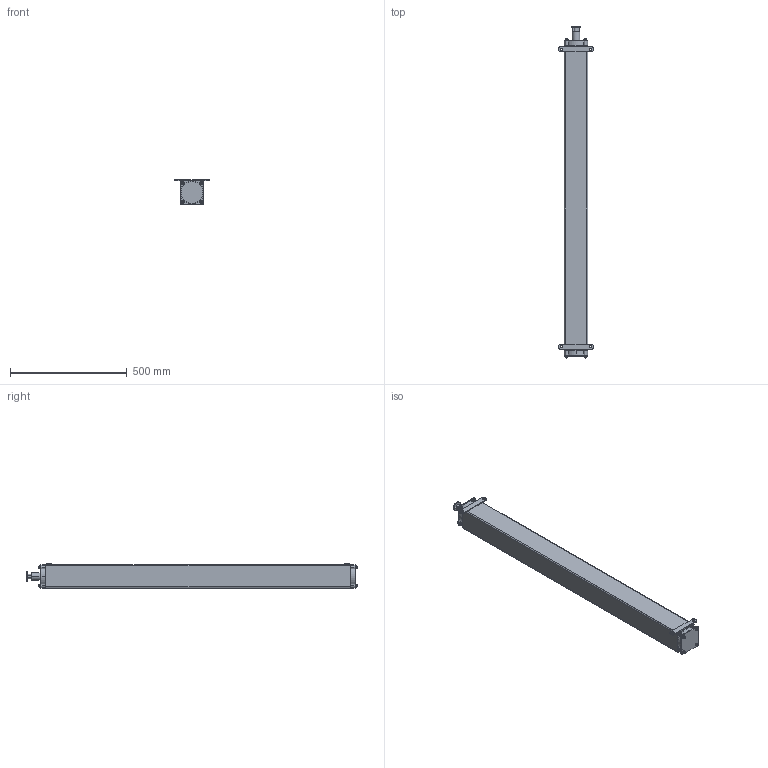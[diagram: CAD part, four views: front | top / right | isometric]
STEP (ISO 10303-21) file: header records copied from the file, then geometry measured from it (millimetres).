
FILE_DESCRIPTION((''),'2;1');
FILE_NAME('EFB-EX_ASM','2021-08-19T10:35:04',('18720616900'),(''),'CREO PARAMETRIC BY PTC INC, 2019010','CREO PARAMETRIC BY PTC INC, 2019010','');
FILE_SCHEMA(('CONFIG_CONTROL_DESIGN'));
Length unit declared in the file: millimetre
Products named in the file (6): EFB-EX-115; M6-50-0001; M6-1--00; M6-1-00; 0001_ASM; EFB-EX_ASM
Assembly tree (12 placements, depth 3):
  EFB-EX_ASM
    EFB-EX-115
    0001_ASM  x8
      M6-50-0001
      M6-1--00
      M6-1-00
Bounding box: 150 x 1419.5 x 104 mm (x, y, z)
Volume: 1623479.3 mm3; surface area: 1054242.7 mm2
Topology: 25 solids, 33 shells, 1247 faces, 3234 edges, 2074 vertices
Faces by surface type: cone 488, plane 265, bspline 264, cylinder 180, torus 50
Entity records: 19589 total; most frequent: CARTESIAN_POINT 10835, ORIENTED_EDGE 1802, DIRECTION 1738, EDGE_CURVE 917, AXIS2_PLACEMENT_3D 653, VERTEX_POINT 597, VECTOR 432, LINE 432
